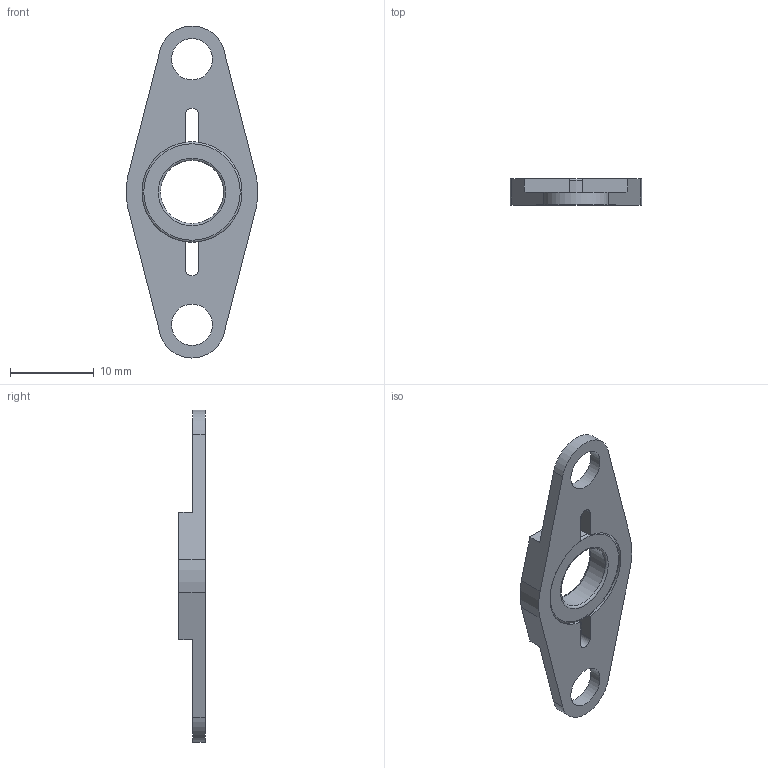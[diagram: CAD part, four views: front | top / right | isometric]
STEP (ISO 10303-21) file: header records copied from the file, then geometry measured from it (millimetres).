
FILE_DESCRIPTION(/* description */ (''),/* implementation_level */ '2;1');
FILE_NAME(/* name */ 'MAGH-PE40-FLANG-ASSY.step',/* time_stamp */ '2025-10-02T09:43:12-05:00',/* author */ (''),/* organization */ (''),/* preprocessor_version */ 'ST-DEVELOPER v20.1',/* originating_system */ 'Autodesk Translation Framework v14.17.0.0',/* authorisation */ '');
FILE_SCHEMA (('AUTOMOTIVE_DESIGN { 1 0 10303 214 3 1 1 }'));
Length unit declared in the file: millimetre
Products named in the file (3): MAGH-PE40-FLANG-ASSY; MAG-PE40-FLNG-R1; R1008D45H - MAGH RING MAGNET
Assembly tree (2 placements, depth 2):
  MAGH-PE40-FLANG-ASSY
    MAG-PE40-FLNG-R1
    R1008D45H - MAGH RING MAGNET
Bounding box: 15.74 x 3.17 x 39.69 mm (x, y, z)
Volume: 787.7 mm3; surface area: 1274.5 mm2
Topology: 2 solids, 2 shells, 37 faces, 102 edges, 68 vertices
Faces by surface type: plane 19, cylinder 12, torus 4, cone 2
Full cylindrical faces by diameter (mm): 4.928 x2, 7.569 x1, 12.04 x1
Entity records: 1305 total; most frequent: DIRECTION 220, CARTESIAN_POINT 220, ORIENTED_EDGE 204, EDGE_CURVE 102, AXIS2_PLACEMENT_3D 80, VERTEX_POINT 68, LINE 60, VECTOR 60
